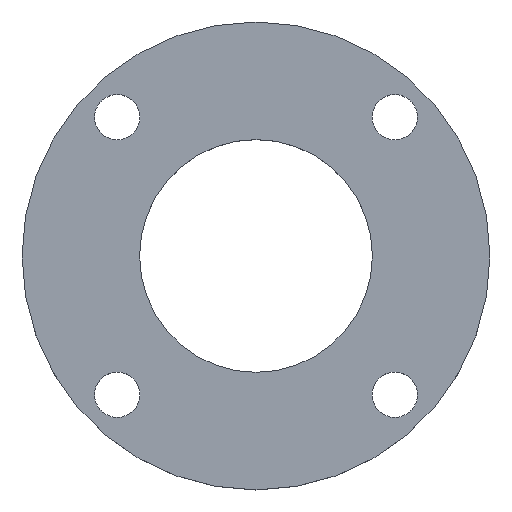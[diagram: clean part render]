
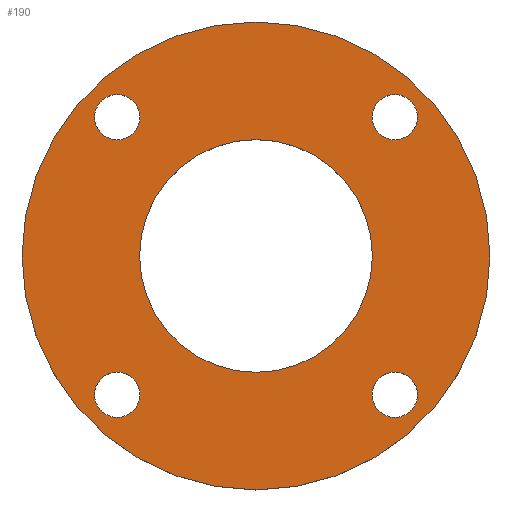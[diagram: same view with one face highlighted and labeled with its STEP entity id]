
A CAD part, top view. The second image highlights one B-rep face of the part: STEP entity #190.
In plain terms, the highlighted planar face has unit normal (0, 0, 1).
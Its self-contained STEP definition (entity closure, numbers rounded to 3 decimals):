
#15=FACE_BOUND('',#42,.T.);
#16=FACE_BOUND('',#43,.T.);
#17=FACE_BOUND('',#44,.T.);
#18=FACE_BOUND('',#45,.T.);
#19=FACE_BOUND('',#46,.T.);
#25=PLANE('',#237);
#33=FACE_OUTER_BOUND('',#41,.T.);
#41=EDGE_LOOP('',(#159,#160));
#42=EDGE_LOOP('',(#161,#162));
#43=EDGE_LOOP('',(#163,#164));
#44=EDGE_LOOP('',(#165,#166));
#45=EDGE_LOOP('',(#167,#168));
#46=EDGE_LOOP('',(#169,#170));
#65=CIRCLE('',#213,7.5);
#66=CIRCLE('',#214,7.5);
#68=CIRCLE('',#217,7.5);
#69=CIRCLE('',#218,7.5);
#71=CIRCLE('',#221,7.5);
#72=CIRCLE('',#222,7.5);
#74=CIRCLE('',#225,7.5);
#75=CIRCLE('',#226,7.5);
#77=CIRCLE('',#229,38.55);
#78=CIRCLE('',#230,38.55);
#80=CIRCLE('',#233,77.5);
#81=CIRCLE('',#234,77.5);
#84=VERTEX_POINT('',#303);
#85=VERTEX_POINT('',#304);
#87=VERTEX_POINT('',#311);
#88=VERTEX_POINT('',#312);
#90=VERTEX_POINT('',#319);
#91=VERTEX_POINT('',#320);
#93=VERTEX_POINT('',#327);
#94=VERTEX_POINT('',#328);
#96=VERTEX_POINT('',#335);
#97=VERTEX_POINT('',#336);
#99=VERTEX_POINT('',#343);
#100=VERTEX_POINT('',#344);
#103=EDGE_CURVE('',#84,#85,#65,.T.);
#104=EDGE_CURVE('',#85,#84,#66,.T.);
#107=EDGE_CURVE('',#87,#88,#68,.T.);
#108=EDGE_CURVE('',#88,#87,#69,.T.);
#111=EDGE_CURVE('',#90,#91,#71,.T.);
#112=EDGE_CURVE('',#91,#90,#72,.T.);
#115=EDGE_CURVE('',#93,#94,#74,.T.);
#116=EDGE_CURVE('',#94,#93,#75,.T.);
#119=EDGE_CURVE('',#96,#97,#77,.T.);
#120=EDGE_CURVE('',#97,#96,#78,.T.);
#123=EDGE_CURVE('',#99,#100,#80,.T.);
#124=EDGE_CURVE('',#100,#99,#81,.T.);
#159=ORIENTED_EDGE('',*,*,#123,.T.);
#160=ORIENTED_EDGE('',*,*,#124,.T.);
#161=ORIENTED_EDGE('',*,*,#103,.T.);
#162=ORIENTED_EDGE('',*,*,#104,.T.);
#163=ORIENTED_EDGE('',*,*,#107,.T.);
#164=ORIENTED_EDGE('',*,*,#108,.T.);
#165=ORIENTED_EDGE('',*,*,#111,.T.);
#166=ORIENTED_EDGE('',*,*,#112,.T.);
#167=ORIENTED_EDGE('',*,*,#115,.T.);
#168=ORIENTED_EDGE('',*,*,#116,.T.);
#169=ORIENTED_EDGE('',*,*,#119,.T.);
#170=ORIENTED_EDGE('',*,*,#120,.T.);
#190=ADVANCED_FACE('',(#33,#15,#16,#17,#18,#19),#25,.T.);
#213=AXIS2_PLACEMENT_3D('',#305,#243,#244);
#214=AXIS2_PLACEMENT_3D('',#306,#245,#246);
#217=AXIS2_PLACEMENT_3D('',#313,#252,#253);
#218=AXIS2_PLACEMENT_3D('',#314,#254,#255);
#221=AXIS2_PLACEMENT_3D('',#321,#261,#262);
#222=AXIS2_PLACEMENT_3D('',#322,#263,#264);
#225=AXIS2_PLACEMENT_3D('',#329,#270,#271);
#226=AXIS2_PLACEMENT_3D('',#330,#272,#273);
#229=AXIS2_PLACEMENT_3D('',#337,#279,#280);
#230=AXIS2_PLACEMENT_3D('',#338,#281,#282);
#233=AXIS2_PLACEMENT_3D('',#345,#288,#289);
#234=AXIS2_PLACEMENT_3D('',#346,#290,#291);
#237=AXIS2_PLACEMENT_3D('',#352,#297,#298);
#243=DIRECTION('center_axis',(0.,0.,-1.));
#244=DIRECTION('ref_axis',(0.,-1.,0.));
#245=DIRECTION('center_axis',(0.,0.,-1.));
#246=DIRECTION('ref_axis',(0.,-1.,0.));
#252=DIRECTION('center_axis',(0.,0.,-1.));
#253=DIRECTION('ref_axis',(-1.,0.,0.));
#254=DIRECTION('center_axis',(0.,0.,-1.));
#255=DIRECTION('ref_axis',(-1.,0.,0.));
#261=DIRECTION('center_axis',(0.,0.,-1.));
#262=DIRECTION('ref_axis',(0.,1.,0.));
#263=DIRECTION('center_axis',(0.,0.,-1.));
#264=DIRECTION('ref_axis',(0.,1.,0.));
#270=DIRECTION('center_axis',(0.,0.,-1.));
#271=DIRECTION('ref_axis',(1.,0.,0.));
#272=DIRECTION('center_axis',(0.,0.,-1.));
#273=DIRECTION('ref_axis',(1.,0.,0.));
#279=DIRECTION('center_axis',(0.,0.,-1.));
#280=DIRECTION('ref_axis',(1.,0.,0.));
#281=DIRECTION('center_axis',(0.,0.,-1.));
#282=DIRECTION('ref_axis',(1.,0.,0.));
#288=DIRECTION('center_axis',(0.,0.,1.));
#289=DIRECTION('ref_axis',(1.,0.,0.));
#290=DIRECTION('center_axis',(0.,0.,1.));
#291=DIRECTION('ref_axis',(1.,0.,0.));
#297=DIRECTION('center_axis',(0.,0.,1.));
#298=DIRECTION('ref_axis',(1.,0.,0.));
#303=CARTESIAN_POINT('',(45.962,38.462,14.));
#304=CARTESIAN_POINT('',(45.962,53.462,14.));
#305=CARTESIAN_POINT('Origin',(45.962,45.962,14.));
#306=CARTESIAN_POINT('Origin',(45.962,45.962,14.));
#311=CARTESIAN_POINT('',(38.462,-45.962,14.));
#312=CARTESIAN_POINT('',(53.462,-45.962,14.));
#313=CARTESIAN_POINT('Origin',(45.962,-45.962,14.));
#314=CARTESIAN_POINT('Origin',(45.962,-45.962,14.));
#319=CARTESIAN_POINT('',(-45.962,-38.462,14.));
#320=CARTESIAN_POINT('',(-45.962,-53.462,14.));
#321=CARTESIAN_POINT('Origin',(-45.962,-45.962,14.));
#322=CARTESIAN_POINT('Origin',(-45.962,-45.962,14.));
#327=CARTESIAN_POINT('',(-38.462,45.962,14.));
#328=CARTESIAN_POINT('',(-53.462,45.962,14.));
#329=CARTESIAN_POINT('Origin',(-45.962,45.962,14.));
#330=CARTESIAN_POINT('Origin',(-45.962,45.962,14.));
#335=CARTESIAN_POINT('',(38.55,0.,14.));
#336=CARTESIAN_POINT('',(-38.55,0.,14.));
#337=CARTESIAN_POINT('Origin',(0.,0.,14.));
#338=CARTESIAN_POINT('Origin',(0.,0.,14.));
#343=CARTESIAN_POINT('',(77.5,0.,14.));
#344=CARTESIAN_POINT('',(-77.5,0.,14.));
#345=CARTESIAN_POINT('Origin',(0.,0.,14.));
#346=CARTESIAN_POINT('Origin',(0.,0.,14.));
#352=CARTESIAN_POINT('Origin',(0.,0.,14.));
